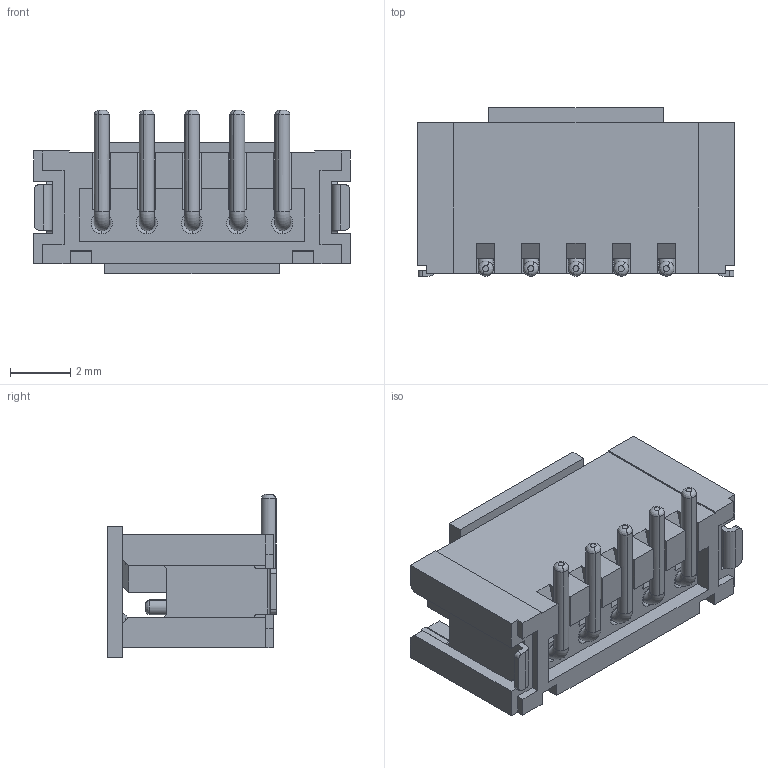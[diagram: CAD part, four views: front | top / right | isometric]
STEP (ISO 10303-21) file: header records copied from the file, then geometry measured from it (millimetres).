
FILE_DESCRIPTION(('CATIA V5 STEP Exchange'),'2;1');
FILE_NAME('Z:\3D文件\小覃\条形连接器-小黄\1.5系列\ZH-01\HC-ZH-NALT-01(立贴-HCTL)\HC-ZH-5ALT-01(立贴-HCTL).stp','2024-12-23T06:57:16+00:00',('none'),('none'),'CATIA Version 5 Release 20 GA (IN-10)','CATIA V5 STEP AP203','none');
FILE_SCHEMA(('CONFIG_CONTROL_DESIGN'));
Length unit declared in the file: millimetre
Products named in the file (1): 产品1
Assembly tree (9 placements, depth 2):
  产品1
    #58
    #893
    #5157  x2
    #6612  x5
Bounding box: 10.5 x 5.6 x 5.42 mm (x, y, z)
Volume: 119.9 mm3; surface area: 532 mm2
Topology: 9 solids, 9 shells, 323 faces, 869 edges, 562 vertices
Faces by surface type: plane 215, cylinder 68, torus 20, revolution 20
Entity records: 7000 total; most frequent: CARTESIAN_POINT 1271, ORIENTED_EDGE 1266, DIRECTION 973, EDGE_CURVE 633, VECTOR 507, LINE 507, VERTEX_POINT 410, AXIS2_PLACEMENT_3D 282
